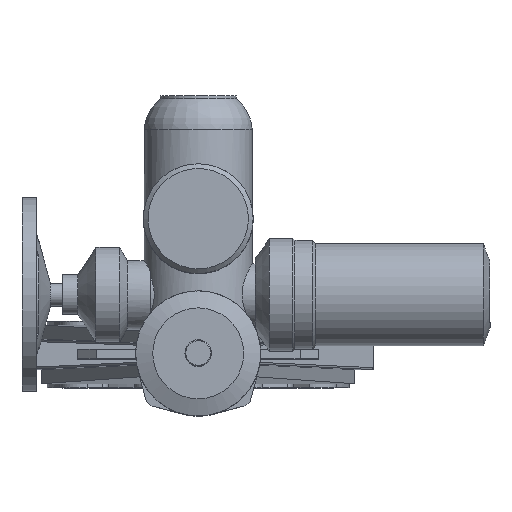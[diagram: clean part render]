
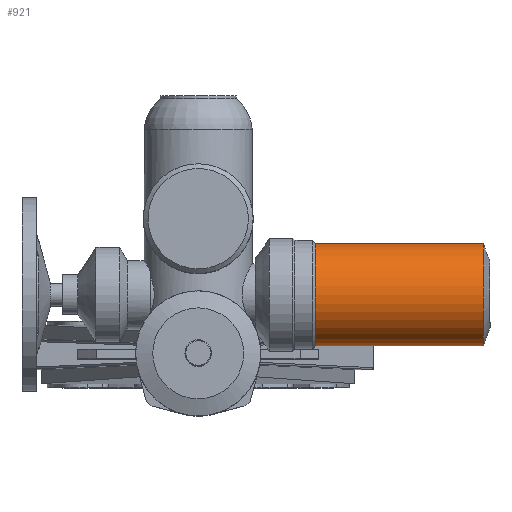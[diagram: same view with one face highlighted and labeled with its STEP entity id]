
A CAD part, top view. The second image highlights one B-rep face of the part: STEP entity #921.
In plain terms, the highlighted cylindrical face has radius 54 mm (diameter 108 mm), a full revolution.
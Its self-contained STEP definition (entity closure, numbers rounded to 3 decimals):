
#921=ADVANCED_FACE('',(#3293,#3295),#3297,.T.);
#3293=FACE_OUTER_BOUND('',#3294,.T.);
#3294=EDGE_LOOP('',(#5055));
#3295=FACE_OUTER_BOUND('',#3296,.T.);
#3296=EDGE_LOOP('',(#5056));
#3297=CYLINDRICAL_SURFACE('',#3298,54.);
#3298=AXIS2_PLACEMENT_3D('',#3299,#3300,#3301);
#3299=CARTESIAN_POINT('',(301.085,62.,725.));
#3300=DIRECTION('',(-1.,0.,0.));
#3301=DIRECTION('',(0.,0.,1.));
#5055=ORIENTED_EDGE('',*,*,#6220,.T.);
#5056=ORIENTED_EDGE('',*,*,#6131,.F.);
#6131=EDGE_CURVE('',#6938,#6938,#6939,.T.);
#6220=EDGE_CURVE('',#7092,#7092,#7093,.T.);
#6938=VERTEX_POINT('',#9589);
#6939=CIRCLE('',#9590,54.);
#7092=VERTEX_POINT('',#9939);
#7093=CIRCLE('',#9940,54.);
#9589=CARTESIAN_POINT('',(123.505,62.,779.));
#9590=AXIS2_PLACEMENT_3D('',#9591,#9592,#9593);
#9591=CARTESIAN_POINT('',(123.505,62.,725.));
#9592=DIRECTION('',(-1.,0.,0.));
#9593=DIRECTION('',(0.,0.,1.));
#9939=CARTESIAN_POINT('',(301.085,62.,779.));
#9940=AXIS2_PLACEMENT_3D('',#9941,#9942,#9943);
#9941=CARTESIAN_POINT('',(301.085,62.,725.));
#9942=DIRECTION('',(-1.,0.,0.));
#9943=DIRECTION('',(0.,0.,1.));
